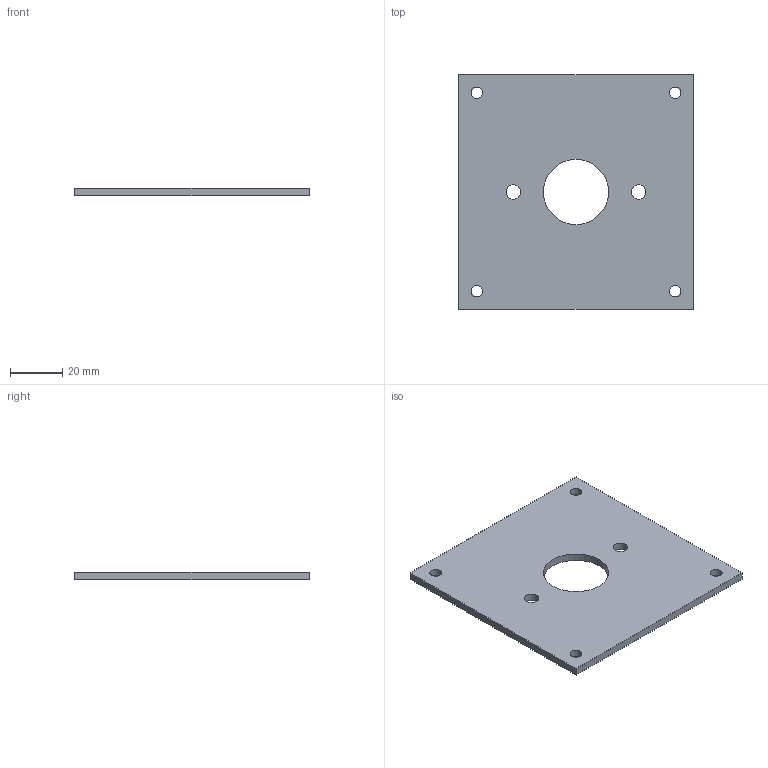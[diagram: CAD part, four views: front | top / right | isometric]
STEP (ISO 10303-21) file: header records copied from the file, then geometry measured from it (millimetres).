
FILE_DESCRIPTION(('Open CASCADE Model'),'2;1');
FILE_NAME('Open CASCADE Shape Model','2026-10-15T18:22:08',('Author'),( 'Open CASCADE'),'Open CASCADE STEP processor 7.9','Open CASCADE 7.9' ,'Unknown');
FILE_SCHEMA(('AUTOMOTIVE_DESIGN { 1 0 10303 214 1 1 1 1 }'));
Length unit declared in the file: millimetre
Products named in the file (1): Open CASCADE STEP translator 7.9 15
Bounding box: 90 x 90 x 3 mm (x, y, z)
Volume: 22494 mm3; surface area: 16584.9 mm2
Topology: 1 solids, 1 shells, 13 faces, 33 edges, 22 vertices
Faces by surface type: cylinder 7, plane 6
Full cylindrical faces by diameter (mm): 4.5 x4, 5.5 x2, 25 x1
Entity records: 868 total; most frequent: DIRECTION 141, CARTESIAN_POINT 135, LINE 71, VECTOR 71, ORIENTED_EDGE 66, PCURVE 66, DEFINITIONAL_REPRESENTATION 66, EDGE_CURVE 33
